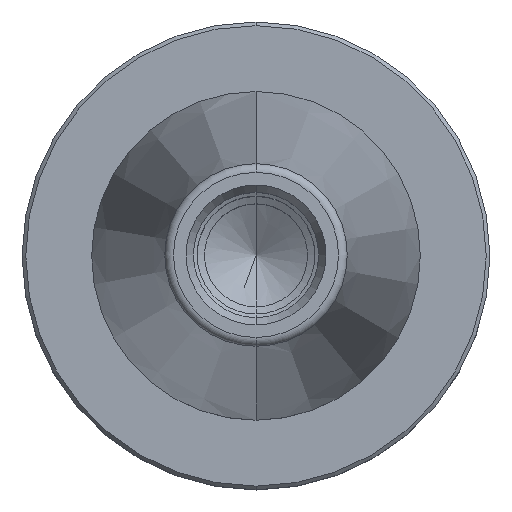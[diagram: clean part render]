
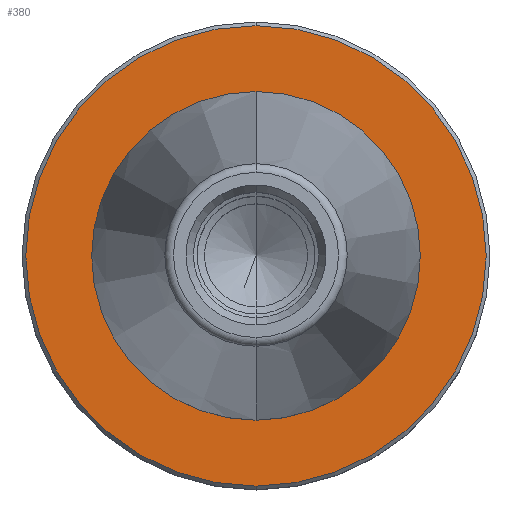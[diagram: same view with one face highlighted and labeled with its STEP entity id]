
A CAD part, top view. The second image highlights one B-rep face of the part: STEP entity #380.
In plain terms, the highlighted planar face has unit normal (0, 0, 1).
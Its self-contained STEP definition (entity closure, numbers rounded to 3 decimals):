
#368=VERTEX_POINT('',#1009);
#380=ADVANCED_FACE('',(#1022,#1023),#1024,.T.);
#388=VERTEX_POINT('',#1032);
#516=EDGE_CURVE('',#570,#368,#1178,.T.);
#560=EDGE_CURVE('',#388,#606,#1226,.T.);
#570=VERTEX_POINT('',#1238);
#606=VERTEX_POINT('',#1277);
#824=EDGE_CURVE('',#606,#388,#1521,.T.);
#868=EDGE_CURVE('',#368,#570,#1573,.T.);
#1009=CARTESIAN_POINT('',(0.,-31.275,-3.2));
#1022=FACE_OUTER_BOUND('',#1768,.T.);
#1023=FACE_BOUND('',#1769,.T.);
#1024=PLANE('',#1770);
#1032=CARTESIAN_POINT('',(0.,-22.327,-3.2));
#1178=CIRCLE('',#2048,31.275);
#1226=CIRCLE('',#2149,22.327);
#1238=CARTESIAN_POINT('',(0.0,31.275,-3.2));
#1277=CARTESIAN_POINT('',(0.0,22.327,-3.2));
#1521=CIRCLE('',#2604,22.327);
#1573=CIRCLE('',#2708,31.275);
#1768=EDGE_LOOP('',(#2898,#2899));
#1769=EDGE_LOOP('',(#2900,#2901));
#1770=AXIS2_PLACEMENT_3D('',#2902,#2903,#2904);
#2048=AXIS2_PLACEMENT_3D('',#3118,#3119,#3120);
#2149=AXIS2_PLACEMENT_3D('',#3167,#3168,#3169);
#2604=AXIS2_PLACEMENT_3D('',#3532,#3533,#3534);
#2708=AXIS2_PLACEMENT_3D('',#3607,#3608,#3609);
#2898=ORIENTED_EDGE('',*,*,#516,.F.);
#2899=ORIENTED_EDGE('',*,*,#868,.F.);
#2900=ORIENTED_EDGE('',*,*,#824,.T.);
#2901=ORIENTED_EDGE('',*,*,#560,.T.);
#2902=CARTESIAN_POINT('',(0.0,26.801,-3.2));
#2903=DIRECTION('',(-0.0,0.0,1.0));
#2904=DIRECTION('',(0.0,-1.0,0.0));
#3118=CARTESIAN_POINT('',(0.0,0.0,-3.2));
#3119=DIRECTION('',(0.0,0.0,-1.0));
#3120=DIRECTION('',(0.0,1.0,0.0));
#3167=CARTESIAN_POINT('',(0.0,0.0,-3.2));
#3168=DIRECTION('',(0.0,0.0,-1.0));
#3169=DIRECTION('',(0.0,1.0,0.0));
#3532=CARTESIAN_POINT('',(0.0,0.0,-3.2));
#3533=DIRECTION('',(0.0,0.0,-1.0));
#3534=DIRECTION('',(0.0,1.0,0.0));
#3607=CARTESIAN_POINT('',(0.0,0.0,-3.2));
#3608=DIRECTION('',(0.0,0.0,-1.0));
#3609=DIRECTION('',(0.0,1.0,0.0));
